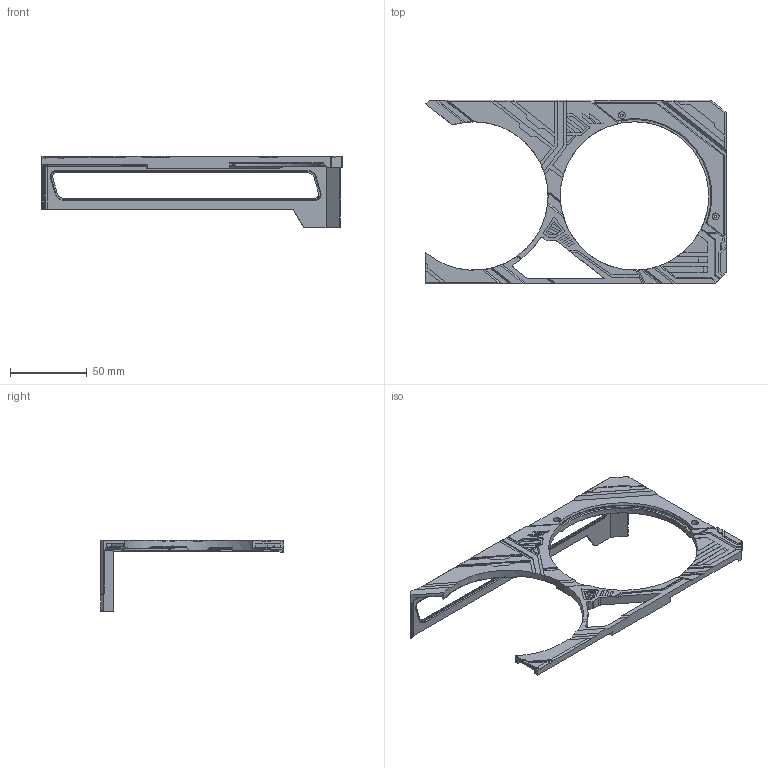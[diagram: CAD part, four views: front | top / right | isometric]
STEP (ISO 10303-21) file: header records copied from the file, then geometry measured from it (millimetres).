
FILE_DESCRIPTION((''),'2;1');
FILE_NAME('C02','2022-11-04T11:01:26',('Kate'),(''),'CREO PARAMETRIC BY PTC INC, 2020281','CREO PARAMETRIC BY PTC INC, 2020281','');
FILE_SCHEMA(('AUTOMOTIVE_DESIGN { 1 0 10303 214 1 1 1 1 }'));
Length unit declared in the file: millimetre
Products named in the file (1): C02
Bounding box: 196.5 x 120 x 46.83 mm (x, y, z)
Volume: 43634.5 mm3; surface area: 32958.8 mm2
Topology: 1 solids, 1 shells, 476 faces, 1359 edges, 890 vertices
Faces by surface type: plane 361, cylinder 70, cone 23, torus 18, extrusion 3, revolution 1
Entity records: 19909 total; most frequent: CARTESIAN_POINT 3348, ORIENTED_EDGE 2716, DIRECTION 2387, PRESENTATION_STYLE_ASSIGNMENT 1359, STYLED_ITEM 1359, CURVE_STYLE 1358, EDGE_CURVE 1358, VECTOR 1040
